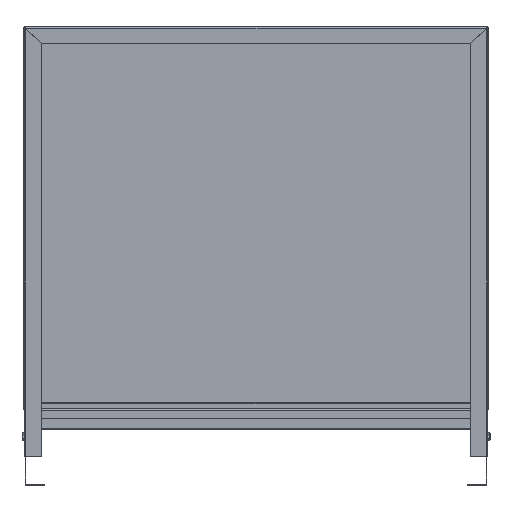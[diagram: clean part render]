
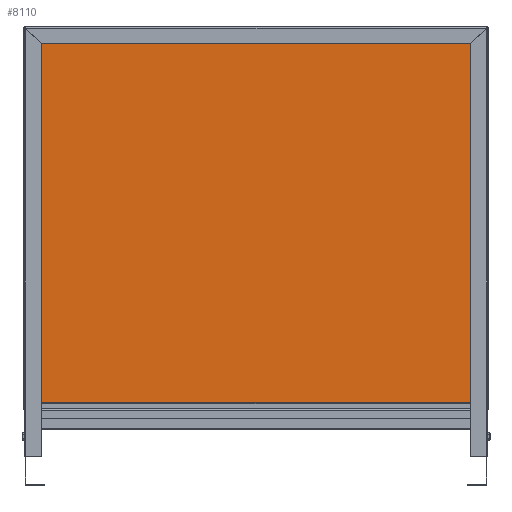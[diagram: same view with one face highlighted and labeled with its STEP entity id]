
A CAD part, front view. The second image highlights one B-rep face of the part: STEP entity #8110.
In plain terms, the highlighted planar face has unit normal (0, -1, 0).
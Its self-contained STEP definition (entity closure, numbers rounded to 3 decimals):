
#3022=CARTESIAN_POINT('',(-325.5,0.8,81.8));
#3023=VERTEX_POINT('',#3022);
#3056=CARTESIAN_POINT('',(-347.771,0.8,647.2));
#3057=VERTEX_POINT('',#3056);
#3087=CARTESIAN_POINT('',(-325.5,0.8,624.929));
#3088=VERTEX_POINT('',#3087);
#3095=CARTESIAN_POINT('',(-325.5,0.8,624.929));
#3096=DIRECTION('',(-0.707,-0.,0.707));
#3097=VECTOR('',#3096,31.496);
#3098=LINE('',#3095,#3097);
#3099=EDGE_CURVE('',#3088,#3057,#3098,.T.);
#3124=CARTESIAN_POINT('',(-325.5,0.8,624.929));
#3125=DIRECTION('',(0.,-0.,-1.));
#3126=VECTOR('',#3125,543.129);
#3127=LINE('',#3124,#3126);
#3128=EDGE_CURVE('',#3088,#3023,#3127,.T.);
#3280=CARTESIAN_POINT('',(325.5,0.8,81.8));
#3281=VERTEX_POINT('',#3280);
#3296=CARTESIAN_POINT('',(347.771,0.8,647.2));
#3297=VERTEX_POINT('',#3296);
#3350=CARTESIAN_POINT('',(325.5,0.8,624.929));
#3351=VERTEX_POINT('',#3350);
#3352=CARTESIAN_POINT('',(347.771,0.8,647.2));
#3353=DIRECTION('',(-0.707,0.,-0.707));
#3354=VECTOR('',#3353,31.496);
#3355=LINE('',#3352,#3354);
#3356=EDGE_CURVE('',#3297,#3351,#3355,.T.);
#3374=CARTESIAN_POINT('',(325.5,0.8,81.8));
#3375=DIRECTION('',(0.,0.,1.));
#3376=VECTOR('',#3375,543.129);
#3377=LINE('',#3374,#3376);
#3378=EDGE_CURVE('',#3281,#3351,#3377,.T.);
#3536=CARTESIAN_POINT('',(-347.629,0.8,647.2));
#3537=VERTEX_POINT('',#3536);
#3544=CARTESIAN_POINT('',(-325.429,0.8,625.));
#3545=VERTEX_POINT('',#3544);
#3546=CARTESIAN_POINT('',(-347.629,0.8,647.2));
#3547=DIRECTION('',(0.707,0.,-0.707));
#3548=VECTOR('',#3547,31.396);
#3549=LINE('',#3546,#3548);
#3550=EDGE_CURVE('',#3537,#3545,#3549,.T.);
#3597=CARTESIAN_POINT('',(347.629,0.8,647.2));
#3598=VERTEX_POINT('',#3597);
#3629=CARTESIAN_POINT('',(325.429,0.8,625.));
#3630=VERTEX_POINT('',#3629);
#3637=CARTESIAN_POINT('',(325.429,0.8,625.));
#3638=DIRECTION('',(0.707,-0.,0.707));
#3639=VECTOR('',#3638,31.396);
#3640=LINE('',#3637,#3639);
#3641=EDGE_CURVE('',#3630,#3598,#3640,.T.);
#3660=CARTESIAN_POINT('',(325.429,0.8,625.));
#3661=DIRECTION('',(-1.,0.,0.));
#3662=VECTOR('',#3661,650.859);
#3663=LINE('',#3660,#3662);
#3664=EDGE_CURVE('',#3630,#3545,#3663,.T.);
#8078=CARTESIAN_POINT('',(0.,0.8,0.));
#8079=DIRECTION('',(0.,1.,0.));
#8080=DIRECTION('',(-1.,0.,0.));
#8081=AXIS2_PLACEMENT_3D('',#8078,#8079,#8080);
#8082=PLANE('',#8081);
#8083=ORIENTED_EDGE('',*,*,#3099,.F.);
#8084=ORIENTED_EDGE('',*,*,#3128,.T.);
#8085=CARTESIAN_POINT('',(325.5,0.8,81.8));
#8086=DIRECTION('',(-1.,0.,0.));
#8087=VECTOR('',#8086,651.);
#8088=LINE('',#8085,#8087);
#8089=EDGE_CURVE('',#3281,#3023,#8088,.T.);
#8090=ORIENTED_EDGE('',*,*,#8089,.F.);
#8091=ORIENTED_EDGE('',*,*,#3378,.T.);
#8092=ORIENTED_EDGE('',*,*,#3356,.F.);
#8093=CARTESIAN_POINT('',(347.629,0.8,647.2));
#8094=DIRECTION('',(1.,0.,-0.));
#8095=VECTOR('',#8094,0.141);
#8096=LINE('',#8093,#8095);
#8097=EDGE_CURVE('',#3598,#3297,#8096,.T.);
#8098=ORIENTED_EDGE('',*,*,#8097,.F.);
#8099=ORIENTED_EDGE('',*,*,#3641,.F.);
#8100=ORIENTED_EDGE('',*,*,#3664,.T.);
#8101=ORIENTED_EDGE('',*,*,#3550,.F.);
#8102=CARTESIAN_POINT('',(-347.771,0.8,647.2));
#8103=DIRECTION('',(1.,0.,-0.));
#8104=VECTOR('',#8103,0.141);
#8105=LINE('',#8102,#8104);
#8106=EDGE_CURVE('',#3057,#3537,#8105,.T.);
#8107=ORIENTED_EDGE('',*,*,#8106,.F.);
#8108=EDGE_LOOP('',(#8083,#8084,#8090,#8091,#8092,#8098,#8099,#8100,#8101,#8107));
#8109=FACE_BOUND('',#8108,.T.);
#8110=ADVANCED_FACE('',(#8109),#8082,.F.);
